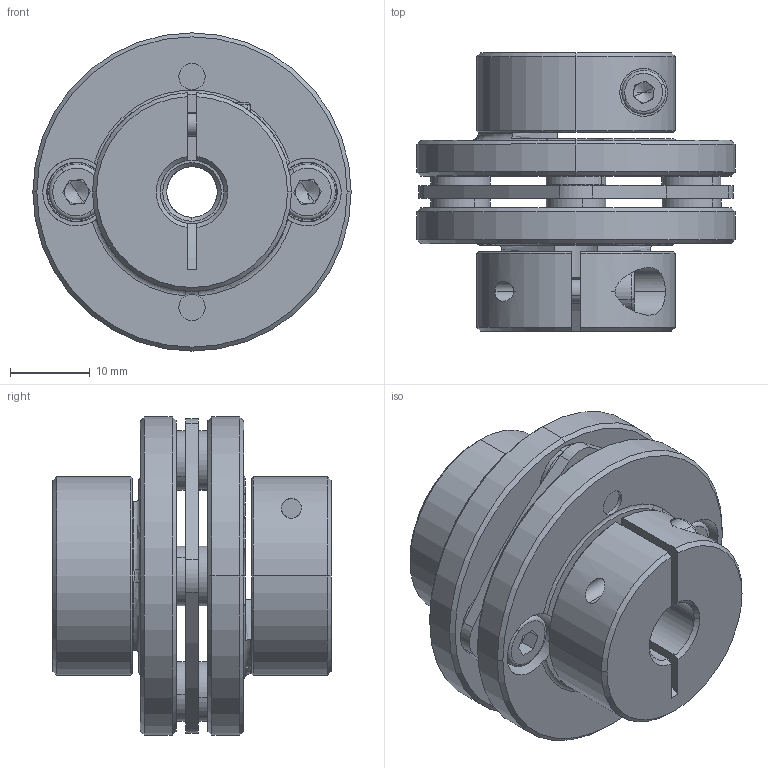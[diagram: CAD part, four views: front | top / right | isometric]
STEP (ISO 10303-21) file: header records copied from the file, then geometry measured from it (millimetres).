
FILE_DESCRIPTION (( 'STEP AP203' ), '1' );
FILE_NAME ('LE1-B-D40L35-6.35-8.STEP', '2021-11-01T02:05:37', ( '' ), ( '' ), 'SwSTEP 2.0', 'SolidWorks 2018', '' );
FILE_SCHEMA (( 'CONFIG_CONTROL_DESIGN' ));
Length unit declared in the file: millimetre
Products named in the file (1): LE1-B-D40L35-6.35-8
Bounding box: 40 x 35 x 40 mm (x, y, z)
Volume: 20685.8 mm3; surface area: 12810.3 mm2
Topology: 1 solids, 13 shells, 423 faces, 1021 edges, 630 vertices
Faces by surface type: cylinder 149, plane 140, cone 114, torus 18, bspline 2
Entity records: 12768 total; most frequent: CARTESIAN_POINT 2461, DIRECTION 2335, ORIENTED_EDGE 2018, EDGE_CURVE 1009, AXIS2_PLACEMENT_3D 952, VERTEX_POINT 630, CIRCLE 530, EDGE_LOOP 491
